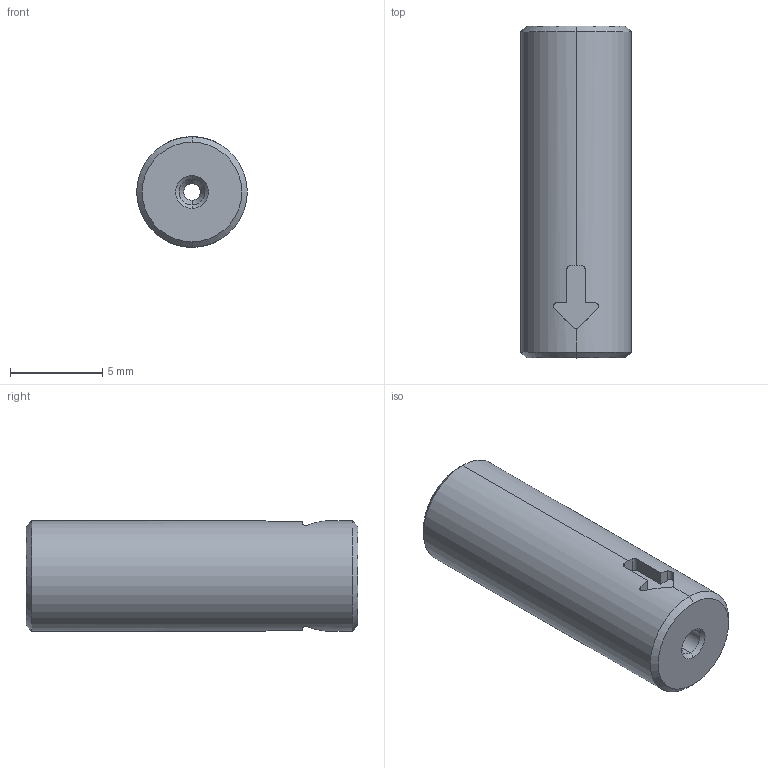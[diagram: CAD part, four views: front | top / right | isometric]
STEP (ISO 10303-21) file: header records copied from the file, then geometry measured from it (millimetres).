
FILE_DESCRIPTION (( 'STEP AP214' ), '1' );
FILE_NAME ('TRL-0049-A.STEP', '2021-06-28T15:23:17', ( '' ), ( '' ), 'SwSTEP 2.0', 'SolidWorks 2016', '' );
FILE_SCHEMA (( 'AUTOMOTIVE_DESIGN' ));
Length unit declared in the file: millimetre
Products named in the file (1): TRL-0049-A
Bounding box: 6 x 18 x 6 mm (x, y, z)
Volume: 486.1 mm3; surface area: 456.4 mm2
Topology: 1 solids, 1 shells, 46 faces, 120 edges, 76 vertices
Faces by surface type: cylinder 18, plane 18, cone 10
Entity records: 1480 total; most frequent: CARTESIAN_POINT 317, ORIENTED_EDGE 240, DIRECTION 236, EDGE_CURVE 120, AXIS2_PLACEMENT_3D 87, VERTEX_POINT 76, VECTOR 62, LINE 62
